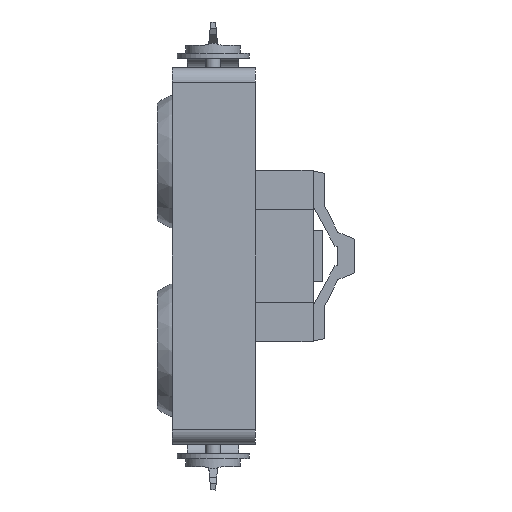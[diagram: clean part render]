
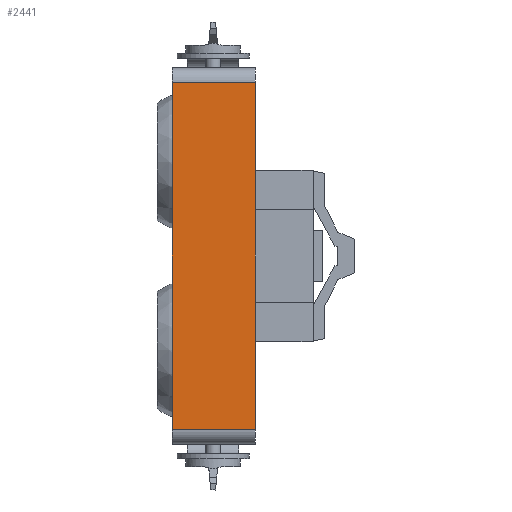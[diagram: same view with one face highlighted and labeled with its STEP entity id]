
A CAD part, front view. The second image highlights one B-rep face of the part: STEP entity #2441.
In plain terms, the highlighted planar face has unit normal (0, -1, 0).
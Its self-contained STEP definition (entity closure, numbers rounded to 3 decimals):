
#155=PLANE('',#2673);
#287=FACE_OUTER_BOUND('',#439,.T.);
#439=EDGE_LOOP('',(#2163,#2164,#2165,#2166));
#643=LINE('',#4803,#877);
#667=LINE('',#4885,#901);
#677=LINE('',#4910,#911);
#678=LINE('',#4912,#912);
#877=VECTOR('',#3159,10.);
#901=VECTOR('',#3251,10.);
#911=VECTOR('',#3279,10.);
#912=VECTOR('',#3282,10.);
#1199=VERTEX_POINT('',#4801);
#1200=VERTEX_POINT('',#4802);
#1223=VERTEX_POINT('',#4882);
#1230=VERTEX_POINT('',#4908);
#1507=EDGE_CURVE('',#1199,#1200,#643,.T.);
#1552=EDGE_CURVE('',#1223,#1199,#667,.T.);
#1565=EDGE_CURVE('',#1230,#1200,#677,.T.);
#1566=EDGE_CURVE('',#1230,#1223,#678,.T.);
#2163=ORIENTED_EDGE('',*,*,#1566,.F.);
#2164=ORIENTED_EDGE('',*,*,#1565,.T.);
#2165=ORIENTED_EDGE('',*,*,#1507,.F.);
#2166=ORIENTED_EDGE('',*,*,#1552,.F.);
#2441=ADVANCED_FACE('',(#287),#155,.T.);
#2673=AXIS2_PLACEMENT_3D('',#4911,#3280,#3281);
#3159=DIRECTION('',(0.,0.,-1.));
#3251=DIRECTION('',(1.,0.,0.));
#3279=DIRECTION('',(1.,0.,0.));
#3280=DIRECTION('center_axis',(0.,-1.,0.));
#3281=DIRECTION('ref_axis',(0.,0.,-1.));
#3282=DIRECTION('',(0.,0.,1.));
#4801=CARTESIAN_POINT('',(37.7,-95.,175.));
#4802=CARTESIAN_POINT('',(37.7,-95.,-175.));
#4803=CARTESIAN_POINT('',(37.7,-95.,-175.));
#4882=CARTESIAN_POINT('',(-46.3,-95.,175.));
#4885=CARTESIAN_POINT('',(-46.3,-95.,175.));
#4908=CARTESIAN_POINT('',(-46.3,-95.,-175.));
#4910=CARTESIAN_POINT('',(-46.3,-95.,-175.));
#4911=CARTESIAN_POINT('Origin',(-46.3,-95.,175.));
#4912=CARTESIAN_POINT('',(-46.3,-95.,-175.));
